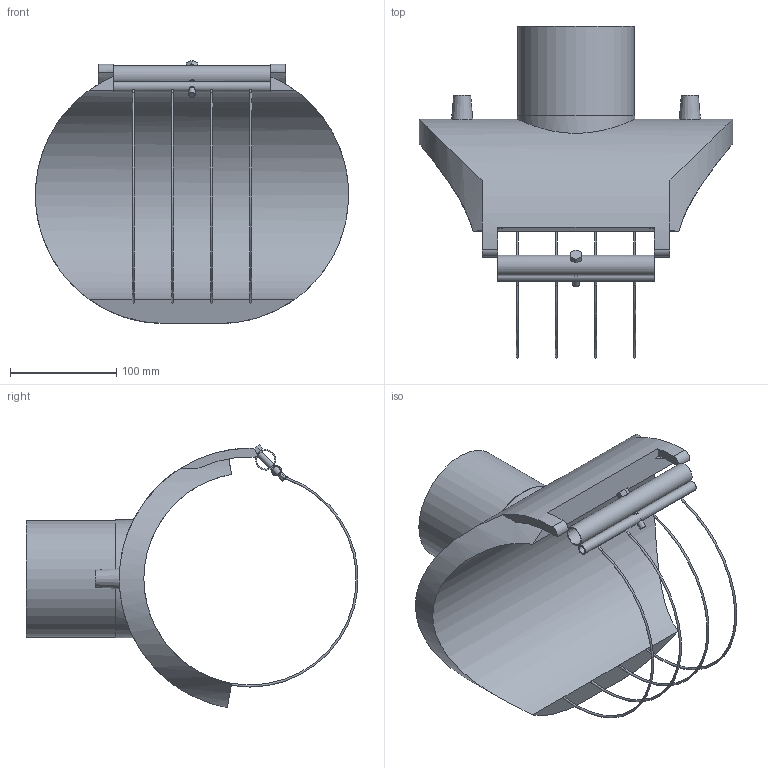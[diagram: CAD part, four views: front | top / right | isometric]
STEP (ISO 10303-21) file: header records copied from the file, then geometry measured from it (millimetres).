
FILE_DESCRIPTION(/* description */ ('Plasson Branch Saddle 200x110'),/* implementation_level */ '2;1');
FILE_NAME(/* name */ 'C:\Users\comp2\Dropbox\99-16-3568-Processing\ElectroFusion Fittings\4958X4\4958X4200110T.ipt.stp',/* time_stamp */ '2020-12-15T12:20:23+02:00',/* author */ ('KIM'),/* organization */ (''),/* preprocessor_version */ 'ST-DEVELOPER v17.2',/* originating_system */ 'Autodesk Inventor 2019',/* authorisation */ '');
FILE_SCHEMA (('AUTOMOTIVE_DESIGN { 1 0 10303 214 3 1 1 }'));
Length unit declared in the file: millimetre
Products named in the file (1): 4958X4200110T
Bounding box: 295 x 312.7 x 247.76 mm (x, y, z)
Volume: 2074119.9 mm3; surface area: 277015.6 mm2
Topology: 1 solids, 1 shells, 63 faces, 187 edges, 126 vertices
Faces by surface type: cylinder 28, plane 25, torus 8, cone 2
Full cylindrical faces by diameter (mm): 6 x3, 7.6 x1, 8 x1, 16 x1, 17.2 x1, 89 x1, 110 x1, 111 x1
Entity records: 3043 total; most frequent: CARTESIAN_POINT 1270, ORIENTED_EDGE 378, DIRECTION 349, EDGE_CURVE 189, AXIS2_PLACEMENT_3D 144, VERTEX_POINT 126, EDGE_LOOP 83, CIRCLE 76
